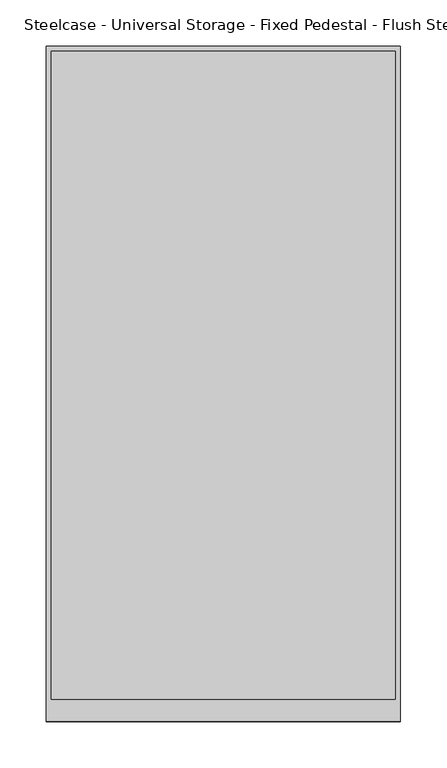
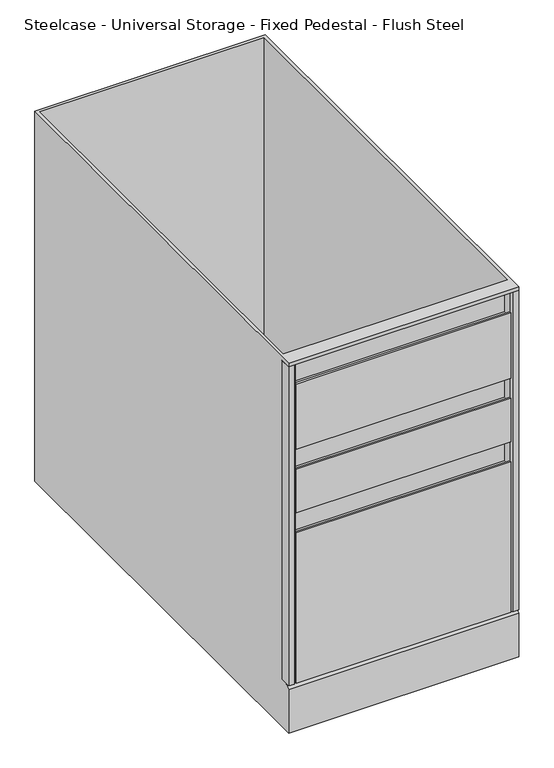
"""IFC4 building model written with IfcOpenShell, lengths in millimetres: furniture geometry, Steelcase - Universal Storage - Fixed Pedestal - Flush Steel : 2 Box/1 File - 25 1/2H x 28 5/8D."""

from ifc_helpers import new_model, si_unit, frame, origin, place, context, project, spatial, polyline, outline, extrude, faceted_brep, source, transform, mapped, element, save


def steelcase_universal_storage_fixed_pedestal_flush_steel_19f9cf9b(model_context):
    return source(origin(), model_context, "Body", "SolidModel", [
        extrude(outline(polyline([(368.3000121, 0.0), (12.7000004, 0.0), (12.7000004, 3.1750001), (368.3000121, 3.1750001), (368.3000121, 0.0)])), frame((0.0, 0.0, 492.1250121), z_axis=(0.0, 0.0, 1.0), x_axis=(1.0, 0.0, 0.0)), (0.0, 0.0, 1.0), 114.2999637),
        extrude(outline(polyline([(368.3000121, 0.0), (12.7000004, 0.0), (12.7000004, 3.1750001), (368.3000121, 3.1750001), (368.3000121, 0.0)])), frame((0.0, 0.0, 381.0000363), z_axis=(0.0, 0.0, 1.0), x_axis=(1.0, 0.0, 0.0)), (0.0, 0.0, 1.0), 76.0729758),
        extrude(outline(polyline([(368.3000121, 3.1750001), (12.7000004, 3.1750001), (12.7000004, 19.0495469), (368.3000121, 19.0495469), (368.3000121, 3.1750001)])), frame((0.0, 0.0, 82.550003), z_axis=(0.0, 0.0, 1.0), x_axis=(1.0, 0.0, 0.0)), (0.0, 0.0, 1.0), 254.000003),
        extrude(outline(polyline([(368.3000121, 3.1750001), (12.7000004, 3.1750001), (12.7000004, 19.0495469), (368.3000121, 19.0495469), (368.3000121, 3.1750001)])), frame((0.0, 0.0, 381.0000363), z_axis=(0.0, 0.0, 1.0), x_axis=(1.0, 0.0, 0.0)), (0.0, 0.0, 1.0), 66.6749637),
        extrude(outline(polyline([(368.3000121, 3.1750001), (12.7000004, 3.1750001), (12.7000004, 19.0495469), (368.3000121, 19.0495469), (368.3000121, 3.1750001)])), frame((0.0, 0.0, 492.1250121), z_axis=(0.0, 0.0, 1.0), x_axis=(1.0, 0.0, 0.0)), (0.0, 0.0, 1.0), 104.7749637),
        extrude(outline(polyline([(368.3000121, 0.0), (12.7000004, 0.0), (12.7000004, 3.1750001), (368.3000121, 3.1750001), (368.3000121, 0.0)])), frame((0.0, 0.0, 82.550003), z_axis=(0.0, 0.0, 1.0), x_axis=(1.0, 0.0, 0.0)), (0.0, 0.0, 1.0), 263.5249849),
        faceted_brep([(381.0, 0.0, 641.3500242), (381.0, 19.0495469, 641.3500242), (381.0, 19.0495469, 82.550003), (381.0, 6.350003, 82.550003), (381.0, 0.0, 76.2), (381.0, 0.0, 0.0), (381.0, 727.202, 0.0), (381.0, 727.202, 647.7), (381.0, 0.0, 647.7), (0.0, 0.0, 641.3500242), (0.0, 0.0, 647.7), (0.0, 727.202, 647.7), (0.0, 727.202, 0.0), (0.0, 0.0, 0.0), (0.0, 0.0, 76.2), (0.0, 6.350003, 82.550003), (0.0, 19.0495469, 82.550003), (0.0, 19.0495469, 641.3500242), (5.08, 722.122, 647.7), (375.92, 722.122, 647.7), (375.92, 24.1295469, 647.7), (5.08, 24.1295469, 647.7), (375.92, 722.122, 82.550003), (5.08, 722.122, 82.550003), (5.08, 24.1295469, 82.550003), (375.92, 24.1295469, 82.550003)], [[[0, 1, 2, 3, 4, 5, 6, 7, 8]], [[9, 10, 11, 12, 13, 14, 15, 16, 17]], [[1, 0, 9, 17]], [[2, 1, 17, 16]], [[2, 16, 15, 3]], [[13, 5, 4, 14]], [[6, 5, 13, 12]], [[7, 6, 12, 11]], [[8, 7, 11, 10], [18, 19, 20, 21]], [[0, 8, 10, 9]], [[4, 3, 15, 14]], [[22, 23, 24, 25]], [[23, 22, 19, 18]], [[24, 23, 18, 21]], [[25, 24, 21, 20]], [[22, 25, 20, 19]]]),
        extrude(outline(polyline([(12.7000004, 19.0495469), (12.7000004, 3.1750001), (9.5250003, 0.0), (0.0, 0.0), (0.0, 19.0495469), (12.7000004, 19.0495469)])), frame((0.0, 0.0, 82.550003), z_axis=(0.0, 0.0, 1.0), x_axis=(1.0, 0.0, 0.0)), (0.0, 0.0, 1.0), 558.8000212),
        extrude(outline(polyline([(381.0000125, 19.0495469), (381.0000125, 0.0), (371.4750122, 0.0), (368.3000121, 3.1750001), (368.3000121, 19.0495469), (381.0000125, 19.0495469)])), frame((0.0, 0.0, 82.550003), z_axis=(0.0, 0.0, 1.0), x_axis=(1.0, 0.0, 0.0)), (0.0, 0.0, 1.0), 558.8000212),
    ])


if __name__ == "__main__":
    model = new_model("IFC4")
    model_context = context("Model", 3, world=origin())
    ifc_project = project(units=[si_unit("LENGTHUNIT", "METRE", prefix="MILLI")], contexts=[model_context])
    site = spatial("IfcSite", under=ifc_project)
    building = spatial("IfcBuilding", under=site)
    placement = place(None, origin())
    steelcase_universal_storage_fixed_pedestal_flush_steel_shape = steelcase_universal_storage_fixed_pedestal_flush_steel_19f9cf9b(model_context)
    element("IfcFurniture", 1, ObjectType="Steelcase - Universal Storage - Fixed Pedestal - Flush Steel : 2 Box/1 File - 25 1/2H x 28 5/8D", at=placement, inside=building, context=model_context, shape_type="MappedRepresentation", body=[
        mapped(steelcase_universal_storage_fixed_pedestal_flush_steel_shape, transform((0.0, 0.0, 0.0), x_axis=(1.0, 0.0, 0.0), y_axis=(0.0, 1.0, 0.0), z_axis=(0.0, 0.0, 1.0))),
    ])
    save(model, "model.ifc")
